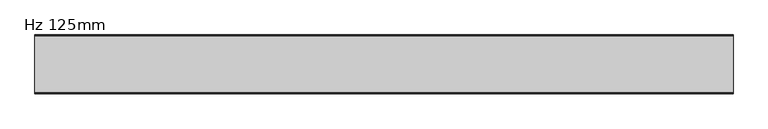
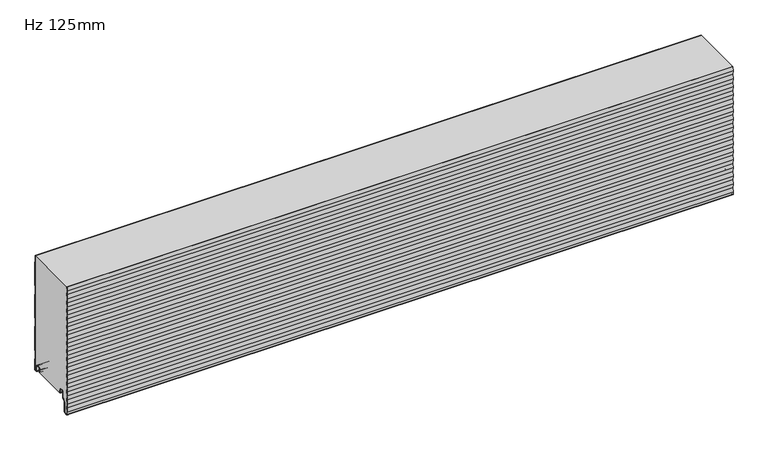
"""IFC4 building model written with IfcOpenShell, lengths in millimetres: plate geometry, KIP-MEX-KSS-1067-R19-CP-Hz-MR_SL : Hz 125mm."""

from ifc_helpers import new_model, si_unit, point, frame, frame_2d, origin, place, context, project, spatial, polyline, circle_curve, trimmed, segment, composite_curve, outline, extrude, source, transform, mapped, element, save
from ifc_brep_helpers import plane_surface, cylinder_surface, revolved_surface, advanced_brep


def hz_125mm_f171d79f(model_context):
    return source(origin(), model_context, "Body", "SolidModel", [
        advanced_brep(
        [(-740.0, -17.0015159, 2.0313088), (-740.0, -18.0015191, 1.0313116), (-740.0, -19.0015105, 2.0313088), (-740.0, -19.0015105, 6.0315125), (-740.0, -18.0015159, 6.0315125), (-740.0, -18.0015159, 8.7237223), (-740.0, -14.7015202, 12.023718), (-740.0, -10.301529, 12.023718), (-740.0, -7.0015335, 8.7237225), (-740.0, -7.0015335, -1.6962564), (-740.0, -5.2315393, -3.4662506), (-740.0, -0.9999916, -3.4662506), (-740.0, -0.9999916, 21.034026), (-740.0, -2.2002307, 22.4196686), (-740.0, -2.2002307, 41.7948349), (-740.0, -1.0, 43.1804679), (-740.0, -1.0, 97.2338833), (-740.0, -2.2002307, 98.6195162), (-740.0, -2.2002307, 117.9946825), (-740.0, -1.0, 119.3803155), (-740.0, -1.0, 173.4337309), (-740.0, -2.2002307, 174.8193638), (-740.0, -2.2002307, 194.1945301), (-740.0, -1.0, 195.5801631), (-740.0, -1.0, 249.6335785), (-740.0, -2.2002307, 251.0192114), (-740.0, -2.2002307, 266.0), (-740.0, -1.2002307, 266.0), (-740.0, -1.2002307, 251.3920919), (-740.0, -0.3417885, 250.4010442), (-740.0, 0.0, 249.4844273), (-740.0, 0.0, 195.7293142), (-740.0, -0.3417885, 194.8126973), (-740.0, -1.2002307, 193.8216497), (-740.0, -1.2002307, 175.1922443), (-740.0, -0.3417885, 174.2011966), (-740.0, 0.0, 173.2845797), (-740.0, 0.0, 119.5294666), (-740.0, -0.3417885, 118.6128497), (-740.0, -1.2002307, 117.6218021), (-740.0, -1.2002307, 98.9923967), (-740.0, -0.3417885, 98.001349), (-740.0, 0.0, 97.0847321), (-740.0, 0.0, 43.329619), (-740.0, -0.3417885, 42.4130021), (-740.0, -1.2002307, 41.4219545), (-740.0, -1.2002307, 22.7925491), (-740.0, -0.3417885, 21.8015014), (-740.0, 0.0, 20.8847931), (-740.0, 8.4e-06, -3.0662545), (-740.0, -1.3999878, -4.4662506), (-740.0, -5.2315393, -4.4662506), (-740.0, -8.0015335, -1.6962564), (-740.0, -8.0015335, 8.7237225), (-740.0, -10.301529, 11.023718), (-740.0, -14.7015202, 11.023718), (-740.0, -17.0015159, 8.7237223), (740.0, -17.0015159, 2.0313088), (740.0, -17.0015159, 8.7237223), (740.0, -14.7015202, 11.023718), (740.0, -10.301529, 11.023718), (740.0, -8.0015335, 8.7237225), (740.0, -8.0015335, -1.6962564), (740.0, -5.2315393, -4.4662506), (740.0, -1.3999878, -4.4662506), (740.0, 8.4e-06, -3.0662545), (740.0, 8.4e-06, 20.8848845), (740.0, -0.3417885, 21.8015014), (740.0, -1.2002307, 22.7925491), (740.0, -1.2002307, 41.4219545), (740.0, -0.3417885, 42.4130021), (740.0, 0.0, 43.329619), (740.0, 0.0, 97.0847321), (740.0, -0.3417885, 98.001349), (740.0, -1.2002307, 98.9923967), (740.0, -1.2002307, 117.6218021), (740.0, -0.3417885, 118.6128497), (740.0, 0.0, 119.5294666), (740.0, 0.0, 173.2845797), (740.0, -0.3417885, 174.2011966), (740.0, -1.2002307, 175.1922443), (740.0, -1.2002307, 193.8216497), (740.0, -0.3417885, 194.8126973), (740.0, 0.0, 195.7293142), (740.0, 0.0, 249.4844273), (740.0, -0.3417885, 250.4010442), (740.0, -1.2002307, 251.3920919), (740.0, -1.2002307, 266.0), (740.0, -2.2002307, 266.0), (740.0, -2.2002307, 251.0192114), (740.0, -1.0, 249.6335785), (740.0, -1.0, 195.5801631), (740.0, -2.2002307, 194.1945301), (740.0, -2.2002307, 174.8193638), (740.0, -1.0, 173.4337309), (740.0, -1.0, 119.3803155), (740.0, -2.2002307, 117.9946825), (740.0, -2.2002307, 98.6195162), (740.0, -1.0, 97.2338833), (740.0, -1.0, 43.1804679), (740.0, -2.2002307, 41.7948349), (740.0, -2.2002307, 22.4196686), (740.0, -0.9999916, 21.034026), (740.0, -0.9999916, -3.4662506), (740.0, -5.2315393, -3.4662506), (740.0, -7.0015335, -1.6962564), (740.0, -7.0015335, 8.7237225), (740.0, -10.301529, 12.023718), (740.0, -14.7015202, 12.023718), (740.0, -18.0015159, 8.7237223), (740.0, -18.0015159, 6.0315125), (740.0, -19.0015105, 6.0315125), (740.0, -19.0015105, 2.0313088), (740.0, -18.0015192, 1.0313116)],
        [
            (0, 1, circle_curve(frame((-740.0, -18.0015132, 2.0313088), z_axis=(-1.0, 0.0, 0.0), x_axis=(0.0, 0.0, 1.0)), 0.9999973)),
            (1, 2, circle_curve(frame((-740.0, -18.0015133, 2.0313088), z_axis=(-1.0, 0.0, 0.0), x_axis=(0.0, 0.0, 1.0)), 0.9999972)),
            (2, 3),
            (3, 4),
            (4, 5),
            (5, 6, circle_curve(frame((-740.0, -14.7015202, 8.7237223), z_axis=(-1.0, 0.0, 0.0), x_axis=(0.0, 0.0, 1.0)), 3.2999957)),
            (6, 7),
            (7, 8, circle_curve(frame((-740.0, -10.301529, 8.7237225), z_axis=(-1.0, 0.0, 0.0), x_axis=(0.0, 0.0, 1.0)), 3.2999955)),
            (8, 9),
            (9, 10, circle_curve(frame((-740.0, -5.2315393, -1.6962564), z_axis=(1.0, 0.0, 0.0), x_axis=(0.0, 0.0, 1.0)), 1.7699942)),
            (10, 11),
            (11, 12),
            (12, 13),
            (13, 14),
            (14, 15),
            (15, 16),
            (16, 17),
            (17, 18),
            (18, 19),
            (19, 20),
            (20, 21),
            (21, 22),
            (22, 23),
            (23, 24),
            (24, 25),
            (25, 26),
            (26, 27),
            (27, 28),
            (28, 29),
            (29, 30, circle_curve(frame((-740.0, -1.3999972, 249.4844273), z_axis=(-1.0, 0.0, 0.0), x_axis=(0.0, 0.0, 1.0)), 1.3999972)),
            (30, 31),
            (31, 32, circle_curve(frame((-740.0, -1.3999972, 195.7293142), z_axis=(-1.0, 0.0, 0.0), x_axis=(0.0, 0.0, 1.0)), 1.3999972)),
            (32, 33),
            (33, 34),
            (34, 35),
            (35, 36, circle_curve(frame((-740.0, -1.3999972, 173.2845797), z_axis=(-1.0, 0.0, 0.0), x_axis=(0.0, 0.0, 1.0)), 1.3999972)),
            (36, 37),
            (37, 38, circle_curve(frame((-740.0, -1.3999972, 119.5294666), z_axis=(-1.0, 0.0, 0.0), x_axis=(0.0, 0.0, 1.0)), 1.3999972)),
            (38, 39),
            (39, 40),
            (40, 41),
            (41, 42, circle_curve(frame((-740.0, -1.3999972, 97.0847321), z_axis=(-1.0, 0.0, 0.0), x_axis=(0.0, 0.0, 1.0)), 1.3999972)),
            (42, 43),
            (43, 44, circle_curve(frame((-740.0, -1.3999972, 43.329619), z_axis=(-1.0, 0.0, 0.0), x_axis=(0.0, 0.0, 1.0)), 1.3999972)),
            (44, 45),
            (45, 46),
            (46, 47),
            (47, 48, circle_curve(frame((-740.0, -1.3999972, 20.8848845), z_axis=(-1.0, 0.0, 0.0), x_axis=(0.0, 0.0, 1.0)), 1.3999972)),
            (48, 49),
            (49, 50, circle_curve(frame((-740.0, -1.3999878, -3.0662545), z_axis=(-1.0, 0.0, 0.0), x_axis=(0.0, 0.0, 1.0)), 1.3999962)),
            (50, 51),
            (51, 52, circle_curve(frame((-740.0, -5.2315393, -1.6962564), z_axis=(-1.0, 0.0, 0.0), x_axis=(0.0, 0.0, 1.0)), 2.7699942)),
            (52, 53),
            (53, 54, circle_curve(frame((-740.0, -10.301529, 8.7237225), z_axis=(1.0, 0.0, 0.0), x_axis=(0.0, 0.0, 1.0)), 2.2999955)),
            (54, 55),
            (55, 56, circle_curve(frame((-740.0, -14.7015202, 8.7237223), z_axis=(1.0, 0.0, 0.0), x_axis=(0.0, 0.0, 1.0)), 2.2999957)),
            (56, 0),
            (57, 58),
            (58, 59, circle_curve(frame((740.0, -14.7015202, 8.7237223), z_axis=(-1.0, 0.0, 0.0), x_axis=(0.0, 0.0, 1.0)), 2.2999957)),
            (59, 60),
            (60, 61, circle_curve(frame((740.0, -10.301529, 8.7237225), z_axis=(-1.0, 0.0, 0.0), x_axis=(0.0, 0.0, 1.0)), 2.2999955)),
            (61, 62),
            (62, 63, circle_curve(frame((740.0, -5.2315393, -1.6962564), z_axis=(1.0, 0.0, 0.0), x_axis=(0.0, 0.0, 1.0)), 2.7699942)),
            (63, 64),
            (64, 65, circle_curve(frame((740.0, -1.3999878, -3.0662545), z_axis=(1.0, 0.0, 0.0), x_axis=(0.0, 0.0, 1.0)), 1.3999962)),
            (65, 66),
            (66, 67, circle_curve(frame((740.0, -1.3999972, 20.8848845), z_axis=(1.0, 0.0, 0.0), x_axis=(0.0, 0.0, 1.0)), 1.3999972)),
            (67, 68),
            (68, 69),
            (69, 70),
            (70, 71, circle_curve(frame((740.0, -1.3999972, 43.329619), z_axis=(1.0, 0.0, 0.0), x_axis=(0.0, 0.0, 1.0)), 1.3999972)),
            (71, 72),
            (72, 73, circle_curve(frame((740.0, -1.3999972, 97.0847321), z_axis=(1.0, 0.0, 0.0), x_axis=(0.0, 0.0, 1.0)), 1.3999972)),
            (73, 74),
            (74, 75),
            (75, 76),
            (76, 77, circle_curve(frame((740.0, -1.3999972, 119.5294666), z_axis=(1.0, 0.0, 0.0), x_axis=(0.0, 0.0, 1.0)), 1.3999972)),
            (77, 78),
            (78, 79, circle_curve(frame((740.0, -1.3999972, 173.2845797), z_axis=(1.0, 0.0, 0.0), x_axis=(0.0, 0.0, 1.0)), 1.3999972)),
            (79, 80),
            (80, 81),
            (81, 82),
            (82, 83, circle_curve(frame((740.0, -1.3999972, 195.7293142), z_axis=(1.0, 0.0, 0.0), x_axis=(0.0, 0.0, 1.0)), 1.3999972)),
            (83, 84),
            (84, 85, circle_curve(frame((740.0, -1.3999972, 249.4844273), z_axis=(1.0, 0.0, 0.0), x_axis=(0.0, 0.0, 1.0)), 1.3999972)),
            (85, 86),
            (86, 87),
            (87, 88),
            (88, 89),
            (89, 90),
            (90, 91),
            (91, 92),
            (92, 93),
            (93, 94),
            (94, 95),
            (95, 96),
            (96, 97),
            (97, 98),
            (98, 99),
            (99, 100),
            (100, 101),
            (101, 102),
            (102, 103),
            (103, 104),
            (104, 105, circle_curve(frame((740.0, -5.2315393, -1.6962564), z_axis=(-1.0, 0.0, 0.0), x_axis=(0.0, 0.0, 1.0)), 1.7699942)),
            (105, 106),
            (106, 107, circle_curve(frame((740.0, -10.301529, 8.7237225), z_axis=(1.0, 0.0, 0.0), x_axis=(0.0, 0.0, 1.0)), 3.2999955)),
            (107, 108),
            (108, 109, circle_curve(frame((740.0, -14.7015202, 8.7237223), z_axis=(1.0, 0.0, 0.0), x_axis=(0.0, 0.0, 1.0)), 3.2999957)),
            (109, 110),
            (110, 111),
            (111, 112),
            (112, 113, circle_curve(frame((740.0, -18.0015133, 2.0313088), z_axis=(1.0, 0.0, 0.0), x_axis=(0.0, 0.0, 1.0)), 0.9999972)),
            (113, 57, circle_curve(frame((740.0, -18.0015132, 2.0313088), z_axis=(1.0, 0.0, 0.0), x_axis=(0.0, 0.0, 1.0)), 0.9999973)),
            (56, 58),
            (57, 0),
            (55, 59),
            (54, 60),
            (53, 61),
            (52, 62),
            (51, 63),
            (50, 64),
            (49, 65),
            (48, 66),
            (47, 67),
            (46, 68),
            (45, 69),
            (44, 70),
            (43, 71),
            (42, 72),
            (41, 73),
            (40, 74),
            (39, 75),
            (38, 76),
            (37, 77),
            (36, 78),
            (35, 79),
            (34, 80),
            (33, 81),
            (32, 82),
            (31, 83),
            (30, 84),
            (29, 85),
            (28, 86),
            (27, 87),
            (88, 26),
            (25, 89),
            (24, 90),
            (23, 91),
            (22, 92),
            (21, 93),
            (20, 94),
            (19, 95),
            (18, 96),
            (17, 97),
            (16, 98),
            (15, 99),
            (14, 100),
            (13, 101),
            (12, 102),
            (11, 103),
            (10, 104),
            (9, 105),
            (8, 106),
            (7, 107),
            (6, 108),
            (5, 109),
            (4, 110),
            (3, 111),
            (2, 112),
            (1, 113),
        ],
        [
            plane_surface(frame((-740.0, 0.0, 533.4), z_axis=(-1.0, 0.0, 0.0), x_axis=(0.0, 1.0, 0.0))),
            plane_surface(frame((740.0, 0.0, 533.4), z_axis=(1.0, 0.0, 0.0), x_axis=(0.0, 1.0, 0.0))),
            plane_surface(frame((-740.0, -17.0015159, 2.0313088), z_axis=(0.0, 1.0, 0.0), x_axis=(1.0, 0.0, 0.0))),
            revolved_surface(polyline([(740.0, -14.7015202, 11.023718), (-740.0, -14.7015202, 11.023718)]), (-740.0, -14.7015202, 8.7237223), (1.0, 0.0, 0.0)),
            plane_surface(frame((-740.0, -14.7015202, 11.023718), z_axis=(0.0, 0.0, -1.0), x_axis=(1.0, 0.0, 0.0))),
            revolved_surface(polyline([(740.0, -10.301529, 11.023717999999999), (-740.0, -10.301529, 11.023717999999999)]), (-740.0, -10.301529, 8.7237225), (1.0, 0.0, 0.0)),
            plane_surface(frame((-740.0, -8.0015335, 8.7237225), z_axis=(0.0, -1.0, 0.0), x_axis=(1.0, 0.0, 0.0))),
            cylinder_surface(frame((-740.0, -5.2315393, -1.6962564), z_axis=(-1.0, 0.0, 0.0), x_axis=(0.0, 0.0, 1.0)), 2.7699942),
            plane_surface(frame((-740.0, -5.2315393, -4.4662506), z_axis=(0.0, 0.0, -1.0), x_axis=(1.0, 0.0, 0.0))),
            cylinder_surface(frame((-740.0, -1.3999878, -3.0662545), z_axis=(-1.0, 0.0, 0.0), x_axis=(0.0, 0.0, 1.0)), 1.3999962),
            plane_surface(frame((-740.0, 8.4e-06, -3.0662545), z_axis=(0.0, 1.0, 0.0), x_axis=(1.0, 0.0, 0.0))),
            cylinder_surface(frame((-740.0, -1.3999972, 20.8848845), z_axis=(-1.0, 0.0, 0.0), x_axis=(0.0, 0.0, 1.0)), 1.3999972),
            plane_surface(frame((-740.0, -0.3417885, 21.8015014), z_axis=(0.0, 0.755864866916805, 0.6547276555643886), x_axis=(1.0, 0.0, 0.0))),
            plane_surface(frame((-740.0, -1.2002307, 32.1072518), z_axis=(0.0, 1.0, 0.0), x_axis=(1.0, 0.0, 0.0))),
            plane_surface(frame((-740.0, -1.2002307, 41.4219545), z_axis=(0.0, 0.755864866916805, -0.6547276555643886), x_axis=(1.0, 0.0, 0.0))),
            cylinder_surface(frame((-740.0, -1.3999972, 43.329619), z_axis=(-1.0, 0.0, 0.0), x_axis=(0.0, 0.0, 1.0)), 1.3999972),
            plane_surface(frame((-740.0, 0.0, 43.329619), z_axis=(0.0, 1.0, 0.0), x_axis=(1.0, 0.0, 0.0))),
            cylinder_surface(frame((-740.0, -1.3999972, 97.0847321), z_axis=(-1.0, 0.0, 0.0), x_axis=(0.0, 0.0, 1.0)), 1.3999972),
            plane_surface(frame((-740.0, -0.3417885, 98.001349), z_axis=(0.0, 0.755864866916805, 0.6547276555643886), x_axis=(1.0, 0.0, 0.0))),
            plane_surface(frame((-740.0, -1.2002307, 108.3070994), z_axis=(0.0, 1.0, 0.0), x_axis=(1.0, 0.0, 0.0))),
            plane_surface(frame((-740.0, -1.2002307, 117.6218021), z_axis=(0.0, 0.755864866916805, -0.6547276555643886), x_axis=(1.0, 0.0, 0.0))),
            cylinder_surface(frame((-740.0, -1.3999972, 119.5294666), z_axis=(-1.0, 0.0, 0.0), x_axis=(0.0, 0.0, 1.0)), 1.3999972),
            plane_surface(frame((-740.0, 0.0, 119.5294666), z_axis=(0.0, 1.0, 0.0), x_axis=(1.0, 0.0, 0.0))),
            cylinder_surface(frame((-740.0, -1.3999972, 173.2845797), z_axis=(-1.0, 0.0, 0.0), x_axis=(0.0, 0.0, 1.0)), 1.3999972),
            plane_surface(frame((-740.0, -0.3417885, 174.2011966), z_axis=(0.0, 0.755864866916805, 0.6547276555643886), x_axis=(1.0, 0.0, 0.0))),
            plane_surface(frame((-740.0, -1.2002307, 184.506947), z_axis=(0.0, 1.0, 0.0), x_axis=(1.0, 0.0, 0.0))),
            plane_surface(frame((-740.0, -1.2002307, 193.8216497), z_axis=(0.0, 0.755864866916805, -0.6547276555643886), x_axis=(1.0, 0.0, 0.0))),
            cylinder_surface(frame((-740.0, -1.3999972, 195.7293142), z_axis=(-1.0, 0.0, 0.0), x_axis=(0.0, 0.0, 1.0)), 1.3999972),
            plane_surface(frame((-740.0, 0.0, 195.7293142), z_axis=(0.0, 1.0, 0.0), x_axis=(1.0, 0.0, 0.0))),
            cylinder_surface(frame((-740.0, -1.3999972, 249.4844273), z_axis=(-1.0, 0.0, 0.0), x_axis=(0.0, 0.0, 1.0)), 1.3999972),
            plane_surface(frame((-740.0, -0.3417885, 250.4010442), z_axis=(0.0, 0.755864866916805, 0.6547276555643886), x_axis=(1.0, 0.0, 0.0))),
            plane_surface(frame((-740.0, -1.2002307, 260.7067946), z_axis=(0.0, 1.0, 0.0), x_axis=(1.0, 0.0, 0.0))),
            plane_surface(frame((-740.0, -2.2002307, 270.3943777), z_axis=(0.0, -1.0, 0.0), x_axis=(1.0, 0.0, 0.0))),
            plane_surface(frame((-740.0, -2.2002307, 251.0192114), z_axis=(0.0, -0.755864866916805, -0.6547276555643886), x_axis=(1.0, 0.0, 0.0))),
            plane_surface(frame((-740.0, -1.0, 249.6335785), z_axis=(0.0, -1.0, 0.0), x_axis=(1.0, 0.0, 0.0))),
            plane_surface(frame((-740.0, -1.0, 195.5801631), z_axis=(0.0, -0.755864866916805, 0.6547276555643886), x_axis=(1.0, 0.0, 0.0))),
            plane_surface(frame((-740.0, -2.2002307, 194.1945301), z_axis=(0.0, -1.0, 0.0), x_axis=(1.0, 0.0, 0.0))),
            plane_surface(frame((-740.0, -2.2002307, 174.8193638), z_axis=(0.0, -0.755864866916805, -0.6547276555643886), x_axis=(1.0, 0.0, 0.0))),
            plane_surface(frame((-740.0, -1.0, 173.4337309), z_axis=(0.0, -1.0, 0.0), x_axis=(1.0, 0.0, 0.0))),
            plane_surface(frame((-740.0, -1.0, 119.3803155), z_axis=(0.0, -0.755864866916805, 0.6547276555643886), x_axis=(1.0, 0.0, 0.0))),
            plane_surface(frame((-740.0, -2.2002307, 117.9946825), z_axis=(0.0, -1.0, 0.0), x_axis=(1.0, 0.0, 0.0))),
            plane_surface(frame((-740.0, -2.2002307, 98.6195162), z_axis=(0.0, -0.755864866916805, -0.6547276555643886), x_axis=(1.0, 0.0, 0.0))),
            plane_surface(frame((-740.0, -1.0, 97.2338833), z_axis=(0.0, -1.0, 0.0), x_axis=(1.0, 0.0, 0.0))),
            plane_surface(frame((-740.0, -1.0, 43.1804679), z_axis=(0.0, -0.755864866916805, 0.6547276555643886), x_axis=(1.0, 0.0, 0.0))),
            plane_surface(frame((-740.0, -2.2002307, 41.7948349), z_axis=(0.0, -1.0, 0.0), x_axis=(1.0, 0.0, 0.0))),
            plane_surface(frame((-740.0, -2.2002307, 22.4196686), z_axis=(0.0, -0.755864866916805, -0.6547276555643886), x_axis=(1.0, 0.0, 0.0))),
            plane_surface(frame((-740.0, -0.9999916, 21.034026), z_axis=(0.0, -1.0, 0.0), x_axis=(1.0, 0.0, 0.0))),
            plane_surface(frame((-740.0, -0.9999916, -3.4662506), z_axis=(0.0, 0.0, 1.0), x_axis=(1.0, 0.0, 0.0))),
            revolved_surface(polyline([(740.0, -5.2315393, 0.07373779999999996), (-740.0, -5.2315393, 0.07373779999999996)]), (-740.0, -5.2315393, -1.6962564), (1.0, 0.0, 0.0)),
            plane_surface(frame((-740.0, -7.0015335, -1.6962564), z_axis=(0.0, 1.0, 0.0), x_axis=(1.0, 0.0, 0.0))),
            cylinder_surface(frame((-740.0, -10.301529, 8.7237225), z_axis=(-1.0, 0.0, 0.0), x_axis=(0.0, 0.0, 1.0)), 3.2999955),
            plane_surface(frame((-740.0, -10.301529, 12.023718), z_axis=(0.0, 0.0, 1.0), x_axis=(1.0, 0.0, 0.0))),
            cylinder_surface(frame((-740.0, -14.7015202, 8.7237223), z_axis=(-1.0, 0.0, 0.0), x_axis=(0.0, 0.0, 1.0)), 3.2999957),
            plane_surface(frame((-740.0, -18.0015159, 8.7237223), z_axis=(0.0, -1.0, 0.0), x_axis=(1.0, 0.0, 0.0))),
            plane_surface(frame((-740.0, -18.0015159, 6.0315125), z_axis=(0.0, 0.0, 1.0), x_axis=(1.0, 0.0, 0.0))),
            plane_surface(frame((-740.0, -19.0015105, 6.0315125), z_axis=(0.0, -1.0, 0.0), x_axis=(1.0, 0.0, 0.0))),
            cylinder_surface(frame((-740.0, -18.0015133, 2.0313088), z_axis=(-1.0, 0.0, 0.0), x_axis=(0.0, 0.0, 1.0)), 0.9999972),
            cylinder_surface(frame((-740.0, -18.0015132, 2.0313088), z_axis=(-1.0, 0.0, 0.0), x_axis=(0.0, 0.0, 1.0)), 0.9999973),
            plane_surface(frame((740.0, 10.0, 266.0), z_axis=(0.0, 0.0, 1.0), x_axis=(-1.0, 0.0, 0.0))),
        ],
        [
            (0, [[1, 2, 3, 4, 5, 6, 7, 8, 9, 10, 11, 12, 13, 14, 15, 16, 17, 18, 19, 20, 21, 22, 23, 24, 25, 26, 27, 28, 29, 30, 31, 32, 33, 34, 35, 36, 37, 38, 39, 40, 41, 42, 43, 44, 45, 46, 47, 48, 49, 50, 51, 52, 53, 54, 55, 56, 57]]),
            (1, [[58, 59, 60, 61, 62, 63, 64, 65, 66, 67, 68, 69, 70, 71, 72, 73, 74, 75, 76, 77, 78, 79, 80, 81, 82, 83, 84, 85, 86, 87, 88, 89, 90, 91, 92, 93, 94, 95, 96, 97, 98, 99, 100, 101, 102, 103, 104, 105, 106, 107, 108, 109, 110, 111, 112, 113, 114]]),
            (2, [[115, -58, 116, -57]]),
            (3, [[117, -59, -115, -56]]),
            (4, [[118, -60, -117, -55]]),
            (5, [[119, -61, -118, -54]]),
            (6, [[120, -62, -119, -53]]),
            (7, [[121, -63, -120, -52]]),
            (8, [[122, -64, -121, -51]]),
            (9, [[123, -65, -122, -50]]),
            (10, [[124, -66, -123, -49]]),
            (11, [[125, -67, -124, -48]]),
            (12, [[126, -68, -125, -47]]),
            (13, [[127, -69, -126, -46]]),
            (14, [[128, -70, -127, -45]]),
            (15, [[129, -71, -128, -44]]),
            (16, [[130, -72, -129, -43]]),
            (17, [[131, -73, -130, -42]]),
            (18, [[132, -74, -131, -41]]),
            (19, [[133, -75, -132, -40]]),
            (20, [[134, -76, -133, -39]]),
            (21, [[135, -77, -134, -38]]),
            (22, [[136, -78, -135, -37]]),
            (23, [[137, -79, -136, -36]]),
            (24, [[138, -80, -137, -35]]),
            (25, [[139, -81, -138, -34]]),
            (26, [[140, -82, -139, -33]]),
            (27, [[141, -83, -140, -32]]),
            (28, [[142, -84, -141, -31]]),
            (29, [[143, -85, -142, -30]]),
            (30, [[144, -86, -143, -29]]),
            (31, [[-28, 145, -87, -144]]),
            (32, [[-89, 146, -26, 147]]),
            (33, [[148, -90, -147, -25]]),
            (34, [[149, -91, -148, -24]]),
            (35, [[150, -92, -149, -23]]),
            (36, [[151, -93, -150, -22]]),
            (37, [[152, -94, -151, -21]]),
            (38, [[153, -95, -152, -20]]),
            (39, [[154, -96, -153, -19]]),
            (40, [[155, -97, -154, -18]]),
            (41, [[156, -98, -155, -17]]),
            (42, [[157, -99, -156, -16]]),
            (43, [[158, -100, -157, -15]]),
            (44, [[159, -101, -158, -14]]),
            (45, [[160, -102, -159, -13]]),
            (46, [[161, -103, -160, -12]]),
            (47, [[162, -104, -161, -11]]),
            (48, [[163, -105, -162, -10]]),
            (49, [[164, -106, -163, -9]]),
            (50, [[165, -107, -164, -8]]),
            (51, [[166, -108, -165, -7]]),
            (52, [[167, -109, -166, -6]]),
            (53, [[168, -110, -167, -5]]),
            (54, [[169, -111, -168, -4]]),
            (55, [[170, -112, -169, -3]]),
            (56, [[171, -113, -170, -2]]),
            (57, [[-116, -114, -171, -1]]),
            (58, [[-146, -88, -145, -27]]),
        ],
    ),
        extrude(outline(composite_curve([segment(polyline([(-125.0, -8.9442792), (-123.9411849, 0.5807017), (-125.0, 10.1056827), (-123.9411849, 19.6306636), (-125.0, 29.1556446), (-123.9411849, 38.6806255), (-125.0, 48.2056065), (-123.9411849, 57.7305874), (-125.0, 67.2555684), (-123.9411849, 76.7805493), (-125.0, 86.3055303), (-123.9411849, 95.8305112), (-125.0, 105.3554922), (-123.9411849, 114.8804731), (-125.0, 124.4054541), (-123.9411849, 133.930435), (-125.0, 143.455416), (-123.9411849, 152.9803969), (-125.0, 162.5053779), (-123.9411849, 172.0303588), (-125.0, 181.5553398), (-123.9411849, 191.0803207), (-125.0, 200.6053017), (-123.9411849, 210.1302826), (-125.0, 219.6552636), (-123.9411849, 229.1802445), (-125.0, 238.7052255), (-123.9411849, 248.2302064), (-125.0, 257.7551874), (-124.0834909, 266.0), (-123.0773313, 266.0), (-123.9938405, 257.7551874), (-122.9350254, 248.2302064), (-123.9938405, 238.7052255), (-122.9350254, 229.1802445), (-123.9938405, 219.6552636), (-122.9350254, 210.1302826), (-123.9938405, 200.6053017), (-122.9350254, 191.0803207), (-123.9938405, 181.5553398), (-122.9350254, 172.0303588), (-123.9938405, 162.5053779), (-122.9350254, 152.9803969), (-123.9938405, 143.455416), (-122.9350254, 133.930435), (-123.9938405, 124.4054541), (-122.9350254, 114.8804731), (-123.9938405, 105.3554922), (-122.9350254, 95.8305112), (-123.9938405, 86.3055303), (-122.9350254, 76.7805493), (-123.9938405, 67.2555684), (-122.9350254, 57.7305874), (-123.9938405, 48.2056065), (-122.9350254, 38.6806255), (-123.9938405, 29.1556446), (-122.9350254, 19.6306636), (-123.9938405, 10.1056827), (-122.9350254, 0.5807017), (-123.9938405, -8.9442792), (-122.9350254, -18.4692602), (-123.9722676, -27.800174), (-123.9722676, -32.4501937)]), True, "CONTINUOUS"), segment(trimmed(circle_curve(frame_2d((-121.4022755, -32.4521995)), 2.5699929), [point((-123.9722676, -32.4501937))], [point((-121.1782859, -35.0124127))], True, "CARTESIAN"), True, "CONTINUOUS"), segment(polyline([(-121.1782859, -35.0124127), (-116.1965632, -34.5765685)]), True, "CONTINUOUS"), segment(trimmed(circle_curve(frame_2d((-116.677967, -31.9198392)), 2.6999926), [point((-116.1965632, -34.5765685))], [point((-113.9779744, -31.9198392))], True, "CARTESIAN"), True, "CONTINUOUS"), segment(polyline([(-113.9779744, -31.9198392), (-113.9779744, -10.7773997)]), True, "CONTINUOUS"), segment(trimmed(circle_curve(frame_2d((-111.677977, -10.7773997)), 2.2999974), [point((-113.9779744, -10.7773997))], [point((-113.3043208, -9.1510559))], False, "CARTESIAN"), True, "CONTINUOUS"), segment(polyline([(-113.3043208, -9.1510559), (-108.4759033, -4.3226385)]), True, "CONTINUOUS"), segment(trimmed(circle_curve(frame_2d((-109.677981, -3.1205608)), 1.6999946), [point((-108.4759033, -4.3226385))], [point((-107.9779864, -3.1205608))], True, "CARTESIAN"), True, "CONTINUOUS"), segment(polyline([(-107.9779864, -3.1205608), (-107.9779864, 8.6903283)]), True, "CONTINUOUS"), segment(trimmed(circle_curve(frame_2d((-104.6279911, 8.6903283)), 3.3499953), [point((-107.9779864, 8.6903283))], [point((-104.6279911, 12.0403236))], False, "CARTESIAN"), True, "CONTINUOUS"), segment(polyline([(-104.6279911, 12.0403236), (-100.2279999, 12.0403236)]), True, "CONTINUOUS"), segment(trimmed(circle_curve(frame_2d((-100.2279999, 8.6903283)), 3.3499953), [point((-100.2279999, 12.0403236))], [point((-96.8780046, 8.6903283))], False, "CARTESIAN"), True, "CONTINUOUS"), segment(polyline([(-96.8780046, 8.6903283), (-96.8780046, 5.9912173), (-95.4795257, 5.9912173), (-95.4795257, 2.2328239)]), True, "CONTINUOUS"), segment(trimmed(circle_curve(frame_2d((-96.6795224, 2.2313092)), 1.1999976), [point((-95.4795257, 2.2328239))], [point((-96.6486225, 1.0317095))], False, "CARTESIAN"), True, "CONTINUOUS"), segment(trimmed(circle_curve(frame_2d((-96.6795224, 2.2313092)), 1.1999976), [point((-96.6486225, 1.0317095))], [point((-97.8780046, 2.1710221))], False, "CARTESIAN"), True, "CONTINUOUS"), segment(polyline([(-97.8780046, 2.1710221), (-97.8780046, 8.6903283)]), True, "CONTINUOUS"), segment(trimmed(circle_curve(frame_2d((-100.2279999, 8.6903283)), 2.3499953), [point((-97.8780046, 8.6903283))], [point((-100.2279999, 11.0403236))], True, "CARTESIAN"), True, "CONTINUOUS"), segment(polyline([(-100.2279999, 11.0403236), (-104.6279911, 11.0403236)]), True, "CONTINUOUS"), segment(trimmed(circle_curve(frame_2d((-104.6279911, 8.6903283)), 2.3499953), [point((-104.6279911, 11.0403236))], [point((-106.9779864, 8.6903283))], True, "CARTESIAN"), True, "CONTINUOUS"), segment(polyline([(-106.9779864, 8.6903283), (-106.9779864, -3.1205608)]), True, "CONTINUOUS"), segment(trimmed(circle_curve(frame_2d((-109.677981, -3.1205608)), 2.6999946), [point((-106.9779864, -3.1205608))], [point((-107.7687965, -5.0297453))], False, "CARTESIAN"), True, "CONTINUOUS"), segment(polyline([(-107.7687965, -5.0297453), (-112.597214, -9.8581627)]), True, "CONTINUOUS"), segment(trimmed(circle_curve(frame_2d((-111.677977, -10.7773997)), 1.2999974), [point((-112.597214, -9.8581627))], [point((-112.9779744, -10.7773997))], True, "CARTESIAN"), True, "CONTINUOUS"), segment(polyline([(-112.9779744, -10.7773997), (-112.9779744, -31.9198392)]), True, "CONTINUOUS"), segment(trimmed(circle_curve(frame_2d((-116.677967, -31.9198392)), 3.6999926), [point((-112.9779744, -31.9198392))], [point((-116.0671659, -35.5690675))], False, "CARTESIAN"), True, "CONTINUOUS"), segment(polyline([(-116.0671659, -35.5690675), (-121.0911302, -36.0086074)]), True, "CONTINUOUS"), segment(trimmed(circle_curve(frame_2d((-121.4022755, -32.4521995)), 3.5699929), [point((-121.0911302, -36.0086074))], [point((-124.9722676, -32.4498355))], False, "CARTESIAN"), True, "CONTINUOUS"), segment(polyline([(-124.9722676, -32.4498355), (-124.9722676, -27.7447637), (-123.9411849, -18.4692602), (-125.0, -8.9442792)]), True, "CONTINUOUS")], self_intersect=False)), frame((-740.0, 0.0, 0.0), z_axis=(1.0, 0.0, 0.0), x_axis=(0.0, 1.0, 0.0)), (0.0, 0.0, 1.0), 1480.0),
        extrude(outline(composite_curve([segment(polyline([(-100.2341594, 12.0403236), (-104.6341506, 12.0403236)]), True, "CONTINUOUS"), segment(trimmed(circle_curve(frame_2d((-104.6341506, 8.6903283)), 3.3499953), [point((-104.6341506, 12.0403236))], [point((-107.9841459, 8.6903283))], True, "CARTESIAN"), True, "CONTINUOUS"), segment(polyline([(-107.9841459, 8.6903283), (-107.9841459, -3.1205608)]), True, "CONTINUOUS"), segment(trimmed(circle_curve(frame_2d((-109.6841405, -3.1205608)), 1.6999946), [point((-107.9841459, -3.1205608))], [point((-108.4820628, -4.3226385))], False, "CARTESIAN"), True, "CONTINUOUS"), segment(polyline([(-108.4820628, -4.3226385), (-113.3104803, -9.1510559)]), True, "CONTINUOUS"), segment(trimmed(circle_curve(frame_2d((-111.6841365, -10.7773997)), 2.2999974), [point((-113.3104803, -9.1510559))], [point((-113.9841339, -10.7773997))], True, "CARTESIAN"), True, "CONTINUOUS"), segment(polyline([(-113.9841339, -10.7773997), (-113.9841339, -31.9198392)]), True, "CONTINUOUS"), segment(trimmed(circle_curve(frame_2d((-116.6841265, -31.9198392)), 2.6999926), [point((-113.9841339, -31.9198392))], [point((-116.2027227, -34.5765685))], False, "CARTESIAN"), True, "CONTINUOUS"), segment(polyline([(-116.2027227, -34.5765685), (-121.1844454, -35.0124127)]), True, "CONTINUOUS"), segment(trimmed(circle_curve(frame_2d((-121.4084351, -32.4521995)), 2.5699929), [point((-121.1844454, -35.0124127))], [point((-123.9784271, -32.4501937))], False, "CARTESIAN"), True, "CONTINUOUS"), segment(polyline([(-123.9784271, -32.4501937), (-123.9784271, -27.800174), (-122.9411849, -18.4692602), (-124.0, -8.9442792), (-122.9411849, 0.5807017), (-124.0, 10.1056827), (-122.9411849, 19.6306636), (-124.0, 29.1556446), (-122.9411849, 38.6806255), (-124.0, 48.2056065), (-122.9411849, 57.7305874), (-124.0, 67.2555684), (-122.9411849, 76.7805493), (-124.0, 86.3055303), (-122.9411849, 95.8305112), (-124.0, 105.3554922), (-122.9411849, 114.8804731), (-124.0, 124.4054541), (-122.9411849, 133.930435), (-124.0, 143.455416), (-122.9411849, 152.9803969), (-124.0, 162.5053779), (-122.9411849, 172.0303588), (-124.0, 181.5553398), (-122.9411849, 191.0803207), (-124.0, 200.6053017), (-122.9411849, 210.1302826), (-124.0, 219.6552636), (-122.9411849, 229.1802445), (-124.0, 238.7052255), (-122.9411849, 248.2302064), (-124.0, 257.7551874), (-123.0834909, 266.0), (-2.2002307, 266.0), (-2.2002307, 251.0192115), (-1.0, 249.6335785), (-1.0, 195.5801631), (-2.2002307, 194.1945302), (-2.2002307, 174.8193639), (-1.0, 173.4337309), (-1.0, 119.3803155), (-2.2002307, 117.9946826), (-2.2002307, 98.6195163), (-1.0, 97.2338833), (-1.0, 43.1804679), (-2.2002307, 41.794835), (-2.2002307, 22.4196687), (-0.9999916, 21.034026), (-0.9999916, -3.4662506), (-5.2315389, -3.4662506)]), True, "CONTINUOUS"), segment(trimmed(circle_curve(frame_2d((-5.2315389, -1.6962564)), 1.7699942), [point((-5.2315389, -3.4662506))], [point((-7.0015331, -1.6962564))], False, "CARTESIAN"), True, "CONTINUOUS"), segment(polyline([(-7.0015331, -1.6962564), (-7.0015331, 8.7237222)]), True, "CONTINUOUS"), segment(trimmed(circle_curve(frame_2d((-10.301529, 8.7237222)), 3.2999959), [point((-7.0015331, 8.7237222))], [point((-10.301529, 12.023718))], True, "CARTESIAN"), True, "CONTINUOUS"), segment(polyline([(-10.301529, 12.023718), (-14.7015202, 12.023718)]), True, "CONTINUOUS"), segment(trimmed(circle_curve(frame_2d((-14.7015202, 8.7237223)), 3.2999957), [point((-14.7015202, 12.023718))], [point((-18.0015159, 8.7237223))], True, "CARTESIAN"), True, "CONTINUOUS"), segment(polyline([(-18.0015159, 8.7237223), (-18.0015159, 6.0315125), (-19.0015105, 6.0315125), (-19.0015105, 2.0313089)]), True, "CONTINUOUS"), segment(trimmed(circle_curve(frame_2d((-18.0015133, 2.0313089)), 0.9999972), [point((-19.0015105, 2.0313089))], [point((-18.0015192, 1.0313117))], True, "CARTESIAN"), True, "CONTINUOUS"), segment(polyline([(-18.0015192, 1.0313117), (-19.0328308, 0.0), (-95.6230724, 0.0), (-96.654782, 1.0317095)]), True, "CONTINUOUS"), segment(trimmed(circle_curve(frame_2d((-96.6856819, 2.2313092)), 1.1999976), [point((-96.654782, 1.0317095))], [point((-95.4856852, 2.2328239))], True, "CARTESIAN"), True, "CONTINUOUS"), segment(polyline([(-95.4856852, 2.2328239), (-95.4856852, 5.9912173), (-96.8841641, 5.9912173), (-96.8841641, 8.6903283)]), True, "CONTINUOUS"), segment(trimmed(circle_curve(frame_2d((-100.2341594, 8.6903283)), 3.3499953), [point((-96.8841641, 8.6903283))], [point((-100.2341594, 12.0403236))], True, "CARTESIAN"), True, "CONTINUOUS")], self_intersect=False)), frame((-740.0, 0.0, 0.0), z_axis=(1.0, 0.0, 0.0), x_axis=(0.0, 1.0, 0.0)), (0.0, 0.0, 1.0), 1480.0),
    ])


if __name__ == "__main__":
    model = new_model("IFC4")
    model_context = context("Model", 3, world=origin())
    ifc_project = project(units=[si_unit("LENGTHUNIT", "METRE", prefix="MILLI")], contexts=[model_context])
    site = spatial("IfcSite", under=ifc_project)
    building = spatial("IfcBuilding", under=site)
    placement = place(None, origin())
    hz_125mm_shape = hz_125mm_f171d79f(model_context)
    element("IfcPlate", 1, ObjectType="KIP-MEX-KSS-1067-R19-CP-Hz-MR_SL : Hz 125mm", at=placement, inside=building, context=model_context, shape_type="MappedRepresentation", body=[
        mapped(hz_125mm_shape, transform((0.0, 0.0, 0.0), x_axis=(1.0, 0.0, 0.0), y_axis=(0.0, 1.0, 0.0), z_axis=(0.0, 0.0, 1.0))),
    ])
    save(model, "model.ifc")
